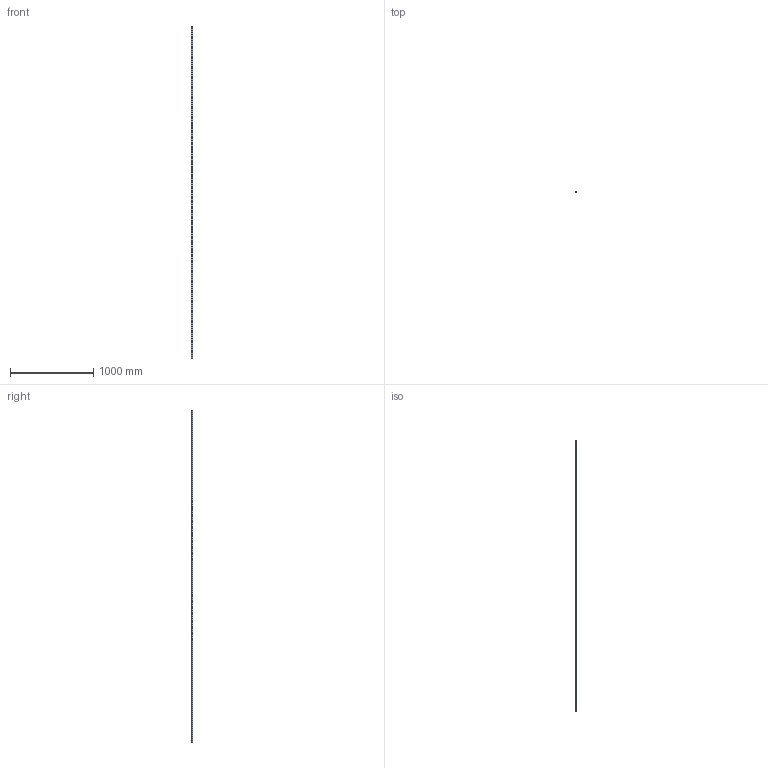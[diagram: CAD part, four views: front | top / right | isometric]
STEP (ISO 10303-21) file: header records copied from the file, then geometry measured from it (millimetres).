
FILE_DESCRIPTION (( 'STEP AP203' ), '1' );
FILE_NAME ('SGR15R4000L.STEP', '2025-06-26T08:58:23', ( 'Owner' ), ( 'Organization' ), 'SwSTEP 2.0', 'SolidWorks 2020', '' );
FILE_SCHEMA (( 'CONFIG_CONTROL_DESIGN' ));
Length unit declared in the file: millimetre
Products named in the file (1): SGR15R4000L
Bounding box: 15 x 15 x 4000 mm (x, y, z)
Volume: 739377.6 mm3; surface area: 260846.4 mm2
Topology: 1 solids, 1 shells, 371 faces, 906 edges, 604 vertices
Faces by surface type: cylinder 282, plane 89
Entity records: 11569 total; most frequent: DIRECTION 2214, CARTESIAN_POINT 1882, ORIENTED_EDGE 1812, AXIS2_PLACEMENT_3D 936, EDGE_CURVE 906, VERTEX_POINT 604, EDGE_LOOP 572, CIRCLE 564
